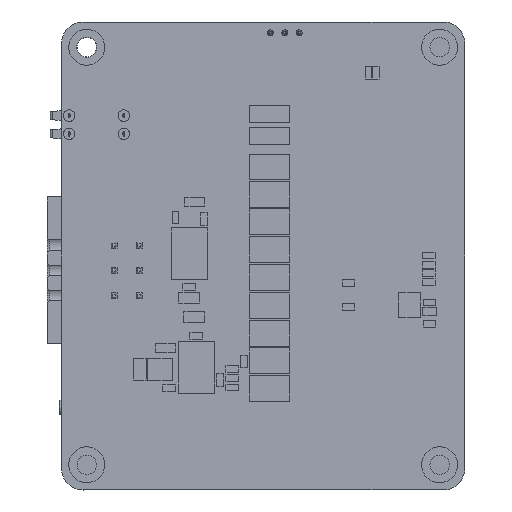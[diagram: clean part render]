
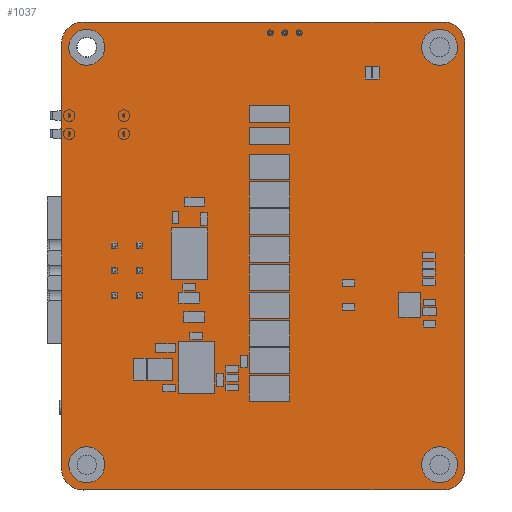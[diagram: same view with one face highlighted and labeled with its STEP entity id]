
A CAD part, front view. The second image highlights one B-rep face of the part: STEP entity #1037.
In plain terms, the highlighted planar face has unit normal (0, -1, 0).
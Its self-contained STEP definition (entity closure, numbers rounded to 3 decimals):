
#134=CARTESIAN_POINT('',(-0.5,0.,0.5));
#135=DIRECTION('',(0.,-1.,0.));
#136=DIRECTION('',(0.,0.,1.));
#137=AXIS2_PLACEMENT_3D('',#134,#135,#136);
#142=DIRECTION('',(1.,0.,0.));
#143=VECTOR('',#142,50.);
#144=CARTESIAN_POINT('',(-0.5,0.,3.5));
#145=LINE('',#144,#143);
#149=CARTESIAN_POINT('',(49.5,0.,0.5));
#150=DIRECTION('',(0.,-1.,0.));
#151=DIRECTION('',(1.,0.,0.));
#152=AXIS2_PLACEMENT_3D('',#149,#150,#151);
#157=DIRECTION('',(0.,0.,-1.));
#158=VECTOR('',#157,59.);
#159=CARTESIAN_POINT('',(52.5,0.,0.5));
#160=LINE('',#159,#158);
#164=CARTESIAN_POINT('',(49.5,0.,-58.5));
#165=DIRECTION('',(0.,-1.,0.));
#166=DIRECTION('',(0.,0.,-1.));
#167=AXIS2_PLACEMENT_3D('',#164,#165,#166);
#172=DIRECTION('',(-1.,0.,0.));
#173=VECTOR('',#172,50.);
#174=CARTESIAN_POINT('',(49.5,0.,-61.5));
#175=LINE('',#174,#173);
#179=CARTESIAN_POINT('',(-0.5,0.,-58.5));
#180=DIRECTION('',(0.,-1.,0.));
#181=DIRECTION('',(-1.,0.,0.));
#182=AXIS2_PLACEMENT_3D('',#179,#180,#181);
#187=DIRECTION('',(0.,0.,1.));
#188=VECTOR('',#187,59.);
#189=CARTESIAN_POINT('',(-3.5,0.,-58.5));
#190=LINE('',#189,#188);
#194=CARTESIAN_POINT('',(0.,0.,0.));
#195=DIRECTION('',(0.,-1.,0.));
#196=DIRECTION('',(1.,0.,0.));
#197=AXIS2_PLACEMENT_3D('',#194,#195,#196);
#202=CARTESIAN_POINT('',(0.,0.,0.));
#203=DIRECTION('',(0.,-1.,0.));
#204=DIRECTION('',(-1.,0.,0.));
#205=AXIS2_PLACEMENT_3D('',#202,#203,#204);
#210=CARTESIAN_POINT('',(0.,0.,-58.));
#211=DIRECTION('',(0.,-1.,0.));
#212=DIRECTION('',(1.,0.,0.));
#213=AXIS2_PLACEMENT_3D('',#210,#211,#212);
#218=CARTESIAN_POINT('',(0.,0.,-58.));
#219=DIRECTION('',(0.,-1.,0.));
#220=DIRECTION('',(-1.,0.,0.));
#221=AXIS2_PLACEMENT_3D('',#218,#219,#220);
#226=CARTESIAN_POINT('',(49.,0.,-58.));
#227=DIRECTION('',(0.,-1.,0.));
#228=DIRECTION('',(1.,0.,0.));
#229=AXIS2_PLACEMENT_3D('',#226,#227,#228);
#234=CARTESIAN_POINT('',(49.,0.,-58.));
#235=DIRECTION('',(0.,-1.,0.));
#236=DIRECTION('',(-1.,0.,0.));
#237=AXIS2_PLACEMENT_3D('',#234,#235,#236);
#242=CARTESIAN_POINT('',(49.,0.,0.));
#243=DIRECTION('',(0.,-1.,0.));
#244=DIRECTION('',(1.,0.,0.));
#245=AXIS2_PLACEMENT_3D('',#242,#243,#244);
#250=CARTESIAN_POINT('',(49.,0.,0.));
#251=DIRECTION('',(0.,-1.,0.));
#252=DIRECTION('',(-1.,0.,0.));
#253=AXIS2_PLACEMENT_3D('',#250,#251,#252);
#862=CARTESIAN_POINT('',(-0.5,0.,3.5));
#863=CARTESIAN_POINT('',(-3.5,0.,0.5));
#864=VERTEX_POINT('',#862);
#865=VERTEX_POINT('',#863);
#870=CARTESIAN_POINT('',(52.5,0.,0.5));
#871=CARTESIAN_POINT('',(49.5,0.,3.5));
#872=VERTEX_POINT('',#870);
#873=VERTEX_POINT('',#871);
#878=CARTESIAN_POINT('',(-3.5,0.,-58.5));
#879=CARTESIAN_POINT('',(-0.5,0.,-61.5));
#880=VERTEX_POINT('',#878);
#881=VERTEX_POINT('',#879);
#886=CARTESIAN_POINT('',(49.5,0.,-61.5));
#887=CARTESIAN_POINT('',(52.5,0.,-58.5));
#888=VERTEX_POINT('',#886);
#889=VERTEX_POINT('',#887);
#958=CARTESIAN_POINT('',(2.5,0.,0.));
#959=CARTESIAN_POINT('',(-2.5,0.,0.));
#960=VERTEX_POINT('',#958);
#961=VERTEX_POINT('',#959);
#962=CARTESIAN_POINT('',(2.5,0.,-58.));
#963=CARTESIAN_POINT('',(-2.5,0.,-58.));
#964=VERTEX_POINT('',#962);
#965=VERTEX_POINT('',#963);
#966=CARTESIAN_POINT('',(51.5,0.,-58.));
#967=CARTESIAN_POINT('',(46.5,0.,-58.));
#968=VERTEX_POINT('',#966);
#969=VERTEX_POINT('',#967);
#970=CARTESIAN_POINT('',(51.5,0.,0.));
#971=CARTESIAN_POINT('',(46.5,0.,0.));
#972=VERTEX_POINT('',#970);
#973=VERTEX_POINT('',#971);
#990=CARTESIAN_POINT('',(0.,0.,0.));
#991=DIRECTION('',(0.,1.,0.));
#992=DIRECTION('',(1.,0.,0.));
#993=AXIS2_PLACEMENT_3D('',#990,#991,#992);
#994=PLANE('',#993);
#996=ORIENTED_EDGE('',*,*,#995,.F.);
#998=ORIENTED_EDGE('',*,*,#997,.T.);
#1000=ORIENTED_EDGE('',*,*,#999,.F.);
#1002=ORIENTED_EDGE('',*,*,#1001,.T.);
#1004=ORIENTED_EDGE('',*,*,#1003,.F.);
#1006=ORIENTED_EDGE('',*,*,#1005,.T.);
#1008=ORIENTED_EDGE('',*,*,#1007,.F.);
#1010=ORIENTED_EDGE('',*,*,#1009,.T.);
#1011=EDGE_LOOP('',(#996,#998,#1000,#1002,#1004,#1006,#1008,#1010));
#1012=FACE_OUTER_BOUND('',#1011,.F.);
#1014=ORIENTED_EDGE('',*,*,#1013,.T.);
#1016=ORIENTED_EDGE('',*,*,#1015,.T.);
#1017=EDGE_LOOP('',(#1014,#1016));
#1018=FACE_BOUND('',#1017,.F.);
#1020=ORIENTED_EDGE('',*,*,#1019,.T.);
#1022=ORIENTED_EDGE('',*,*,#1021,.T.);
#1023=EDGE_LOOP('',(#1020,#1022));
#1024=FACE_BOUND('',#1023,.F.);
#1026=ORIENTED_EDGE('',*,*,#1025,.T.);
#1028=ORIENTED_EDGE('',*,*,#1027,.T.);
#1029=EDGE_LOOP('',(#1026,#1028));
#1030=FACE_BOUND('',#1029,.F.);
#1032=ORIENTED_EDGE('',*,*,#1031,.T.);
#1034=ORIENTED_EDGE('',*,*,#1033,.T.);
#1035=EDGE_LOOP('',(#1032,#1034));
#1036=FACE_BOUND('',#1035,.F.);
#138=CIRCLE('',#137,3.);
#153=CIRCLE('',#152,3.);
#168=CIRCLE('',#167,3.);
#183=CIRCLE('',#182,3.);
#198=CIRCLE('',#197,2.5);
#206=CIRCLE('',#205,2.5);
#214=CIRCLE('',#213,2.5);
#222=CIRCLE('',#221,2.5);
#230=CIRCLE('',#229,2.5);
#238=CIRCLE('',#237,2.5);
#246=CIRCLE('',#245,2.5);
#254=CIRCLE('',#253,2.5);
#995=EDGE_CURVE('',#864,#865,#138,.T.);
#997=EDGE_CURVE('',#864,#873,#145,.T.);
#999=EDGE_CURVE('',#872,#873,#153,.T.);
#1001=EDGE_CURVE('',#872,#889,#160,.T.);
#1003=EDGE_CURVE('',#888,#889,#168,.T.);
#1005=EDGE_CURVE('',#888,#881,#175,.T.);
#1007=EDGE_CURVE('',#880,#881,#183,.T.);
#1009=EDGE_CURVE('',#880,#865,#190,.T.);
#1013=EDGE_CURVE('',#960,#961,#198,.T.);
#1015=EDGE_CURVE('',#961,#960,#206,.T.);
#1019=EDGE_CURVE('',#964,#965,#214,.T.);
#1021=EDGE_CURVE('',#965,#964,#222,.T.);
#1025=EDGE_CURVE('',#968,#969,#230,.T.);
#1027=EDGE_CURVE('',#969,#968,#238,.T.);
#1031=EDGE_CURVE('',#972,#973,#246,.T.);
#1033=EDGE_CURVE('',#973,#972,#254,.T.);
#1037=ADVANCED_FACE('',(#1012,#1018,#1024,#1030,#1036),#994,.F.);
